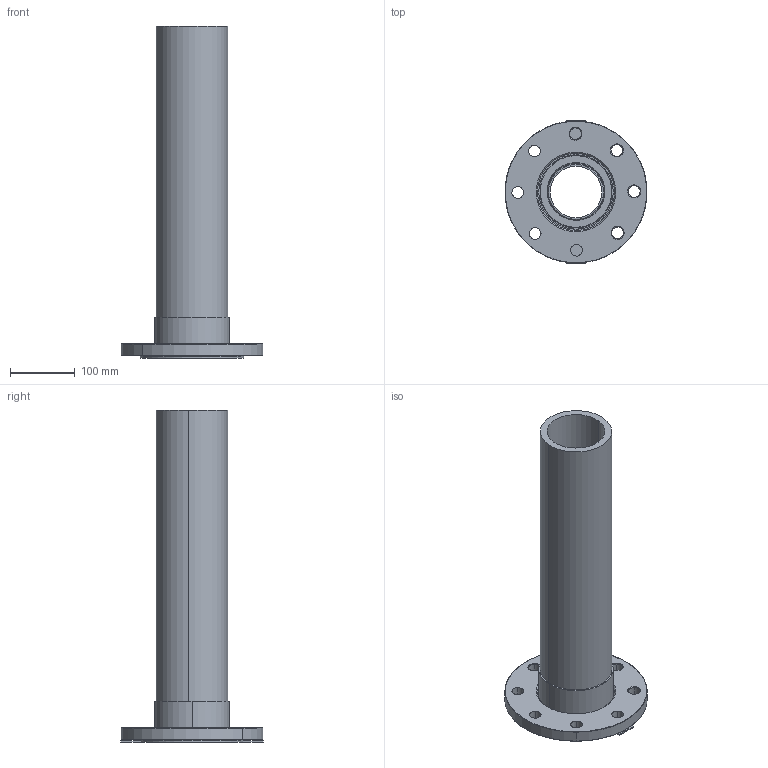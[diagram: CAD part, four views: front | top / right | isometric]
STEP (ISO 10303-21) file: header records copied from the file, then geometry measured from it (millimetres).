
FILE_DESCRIPTION (( 'STEP AP203' ), '1' );
FILE_NAME ('KP_C20-110L.STEP', '2012-01-18T14:17:38', ( '' ), ( '' ), 'SwSTEP 2.0', 'SolidWorks 2012', '' );
FILE_SCHEMA (( 'CONFIG_CONTROL_DESIGN' ));
Length unit declared in the file: millimetre
Products named in the file (1): KP_C20-110L
Bounding box: 219.33 x 220 x 513 mm (x, y, z)
Volume: 2274473.9 mm3; surface area: 491279.7 mm2
Topology: 1 solids, 1 shells, 98 faces, 220 edges, 136 vertices
Faces by surface type: cylinder 42, cone 22, plane 22, torus 12
Entity records: 2877 total; most frequent: DIRECTION 554, CARTESIAN_POINT 455, ORIENTED_EDGE 440, AXIS2_PLACEMENT_3D 235, EDGE_CURVE 220, VERTEX_POINT 136, CIRCLE 136, EDGE_LOOP 128
